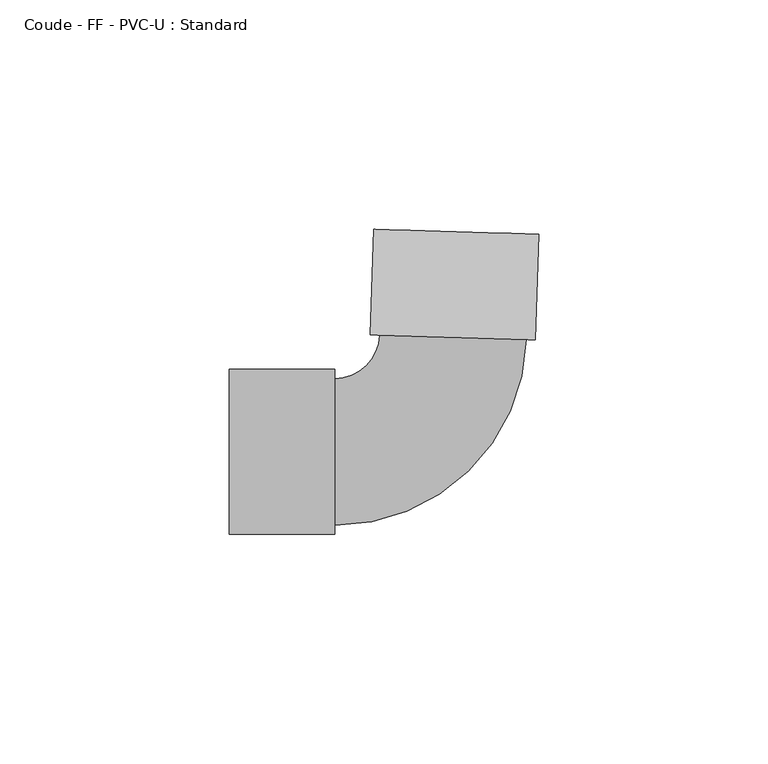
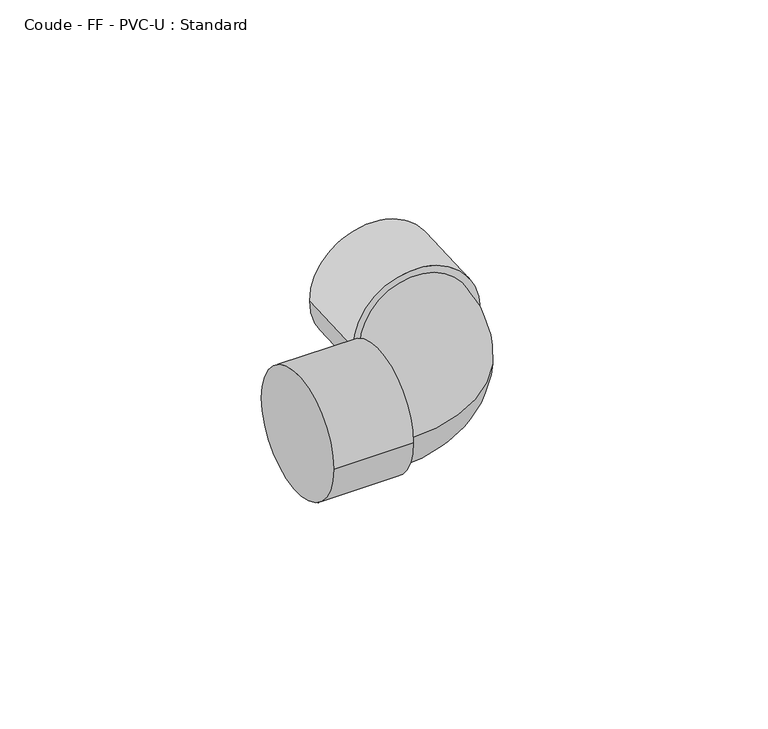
"""IFC4 building model written with IfcOpenShell, lengths in millimetres: pipe fitting geometry, Coude - FF - PVC-U : Standard."""

from ifc_helpers import new_model, si_unit, point, frame, origin, place, context, project, spatial, circle_curve, ellipse_curve, trimmed, source, transform, mapped, element, save
from ifc_brep_helpers import plane_surface, cylinder_surface, revolved_surface, advanced_brep


def coude_ff_pvc_u_standard_f8dcd8a2(model_context):
    return source(origin(), model_context, "Body", "AdvancedBrep", [
        advanced_brep(
        [(-48.0, -18.0, 0.0), (-48.0, 18.0, 0.0), (-25.0, -18.0, 0.0), (-25.0, 18.0, 0.0), (-25.0, -16.0, 0.0), (-25.0, 16.0, 0.0), (-15.2397413, 25.4705769, 0.0), (16.74574, 24.5067377, 0.0), (18.7448326, 24.4464977, 0.0), (-17.2388338, 25.5308168, 0.0), (19.4375921, 47.4360624, 0.0), (-16.5460744, 48.5203815, 0.0)],
        [
            (0, 1, circle_curve(frame((-48.0, 0.0, 0.0), z_axis=(-1.0, 0.0, 0.0), x_axis=(0.0, 1.0, 0.0)), 18.0)),
            (1, 0, circle_curve(frame((-48.0, 0.0, 0.0), z_axis=(-1.0, 0.0, 0.0), x_axis=(0.0, 1.0, 0.0)), 18.0)),
            (2, 3, circle_curve(frame((-25.0, 0.0, 0.0), z_axis=(1.0, 0.0, 0.0), x_axis=(0.0, 1.0, 0.0)), 18.0)),
            (3, 2, circle_curve(frame((-25.0, 0.0, 0.0), z_axis=(1.0, 0.0, 0.0), x_axis=(0.0, 1.0, 0.0)), 18.0)),
            (4, 5, circle_curve(frame((-25.0, 0.0, 0.0), z_axis=(-1.0, 0.0, 0.0), x_axis=(0.0, 1.0, 0.0)), 16.0)),
            (5, 4, circle_curve(frame((-25.0, 0.0, 0.0), z_axis=(-1.0, 0.0, 0.0), x_axis=(0.0, 1.0, 0.0)), 16.0)),
            (0, 2),
            (3, 1),
            (6, 5, circle_curve(frame((-25.0, 25.7646891, 0.0), z_axis=(0.0, 0.0, -1.0), x_axis=(0.0, -1.0, 0.0)), 9.7646891)),
            (4, 7, circle_curve(frame((-25.0, 25.7646891, 0.0), z_axis=(0.0, 0.0, 1.0), x_axis=(0.0, -1.0, 0.0)), 41.7646891)),
            (7, 6, circle_curve(frame((0.7529994, 24.9886573, 0.0), z_axis=(-0.030119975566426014, -0.9995462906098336, 0.0), x_axis=(-0.9995462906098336, 0.030119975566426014, 0.0)), 16.0)),
            (6, 7, circle_curve(frame((0.7529994, 24.9886573, 0.0), z_axis=(-0.030119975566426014, -0.9995462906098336, 0.0), x_axis=(-0.9995462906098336, 0.030119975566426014, 0.0)), 16.0)),
            (8, 9, circle_curve(frame((0.7529994, 24.9886573, 0.0), z_axis=(-0.030119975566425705, -0.9995462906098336, 0.0), x_axis=(-0.9995462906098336, 0.030119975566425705, 0.0)), 18.0)),
            (9, 8, circle_curve(frame((0.7529994, 24.9886573, 0.0), z_axis=(-0.030119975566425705, -0.9995462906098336, 0.0), x_axis=(-0.9995462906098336, 0.030119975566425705, 0.0)), 18.0)),
            (10, 11, circle_curve(frame((1.4457588, 47.9782219, 0.0), z_axis=(0.030119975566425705, 0.9995462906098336, 0.0), x_axis=(-0.9995462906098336, 0.030119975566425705, 0.0)), 18.0)),
            (11, 10, circle_curve(frame((1.4457588, 47.9782219, 0.0), z_axis=(0.030119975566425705, 0.9995462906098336, 0.0), x_axis=(-0.9995462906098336, 0.030119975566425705, 0.0)), 18.0)),
            (8, 10),
            (11, 9),
        ],
        [
            plane_surface(frame((-48.0, 0.0, 0.0), z_axis=(-1.0, 0.0, 0.0), x_axis=(0.0, 0.0, 1.0))),
            plane_surface(frame((-25.0, 0.0, 0.0), z_axis=(1.0, 0.0, 0.0), x_axis=(0.0, 0.0, 1.0))),
            cylinder_surface(frame((-48.0, 0.0, 0.0), z_axis=(-1.0, 0.0, 0.0), x_axis=(0.0, 1.0, 0.0)), 18.0),
            revolved_surface(trimmed(ellipse_curve(frame((-25.0, 0.0, 0.0), z_axis=(-1.0, 0.0, 0.0), x_axis=(0.0, 1.0, 0.0)), 16.0, 16.0), [point((-25.0, -16.0, 0.0))], [point((-25.0, 16.0, 0.0))], True, "CARTESIAN"), (-25.0, 25.7646891, 0.0), (0.0, 0.0, 1.0)),
            revolved_surface(trimmed(ellipse_curve(frame((-25.0, 0.0, 0.0), z_axis=(-1.0, 0.0, 0.0), x_axis=(0.0, 1.0, 0.0)), 16.0, 16.0), [point((-25.0, 16.0, 0.0))], [point((-25.0, -16.0, 0.0))], True, "CARTESIAN"), (-25.0, 25.7646891, 0.0), (0.0, 0.0, 1.0)),
            plane_surface(frame((0.7529994, 24.9886573, 0.0), z_axis=(-0.030119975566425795, -0.9995462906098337, 0.0), x_axis=(0.0, 0.0, 1.0))),
            plane_surface(frame((1.4457588, 47.9782219, 0.0), z_axis=(0.030119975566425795, 0.9995462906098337, 0.0), x_axis=(0.0, 0.0, 1.0))),
            cylinder_surface(frame((0.7529994, 24.9886573, 0.0), z_axis=(-0.030119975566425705, -0.9995462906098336, 0.0), x_axis=(-0.9995462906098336, 0.030119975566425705, 0.0)), 18.0),
        ],
        [
            (0, [[1, 2]]),
            (1, [[3, 4], [5, 6]]),
            (2, [[-1, 7, -4, 8]]),
            (2, [[-2, -8, -3, -7]]),
            (3, [[9, -5, 10, 11]]),
            (4, [[-9, 12, -10, -6]]),
            (5, [[13, 14], [-11, -12]]),
            (6, [[15, 16]]),
            (7, [[-13, 17, -16, 18]]),
            (7, [[-14, -18, -15, -17]]),
        ],
    ),
    ])


if __name__ == "__main__":
    model = new_model("IFC4")
    model_context = context("Model", 3, world=origin())
    ifc_project = project(units=[si_unit("LENGTHUNIT", "METRE", prefix="MILLI")], contexts=[model_context])
    site = spatial("IfcSite", under=ifc_project)
    building = spatial("IfcBuilding", under=site)
    placement = place(None, origin())
    coude_ff_pvc_u_standard_shape = coude_ff_pvc_u_standard_f8dcd8a2(model_context)
    element("IfcPipeFitting", 1, ObjectType="Coude - FF - PVC-U : Standard", at=placement, inside=building, context=model_context, shape_type="MappedRepresentation", body=[
        mapped(coude_ff_pvc_u_standard_shape, transform((0.0, 0.0, 0.0), x_axis=(1.0, 0.0, 0.0), y_axis=(0.0, 1.0, 0.0), z_axis=(0.0, 0.0, 1.0))),
    ])
    save(model, "model.ifc")
